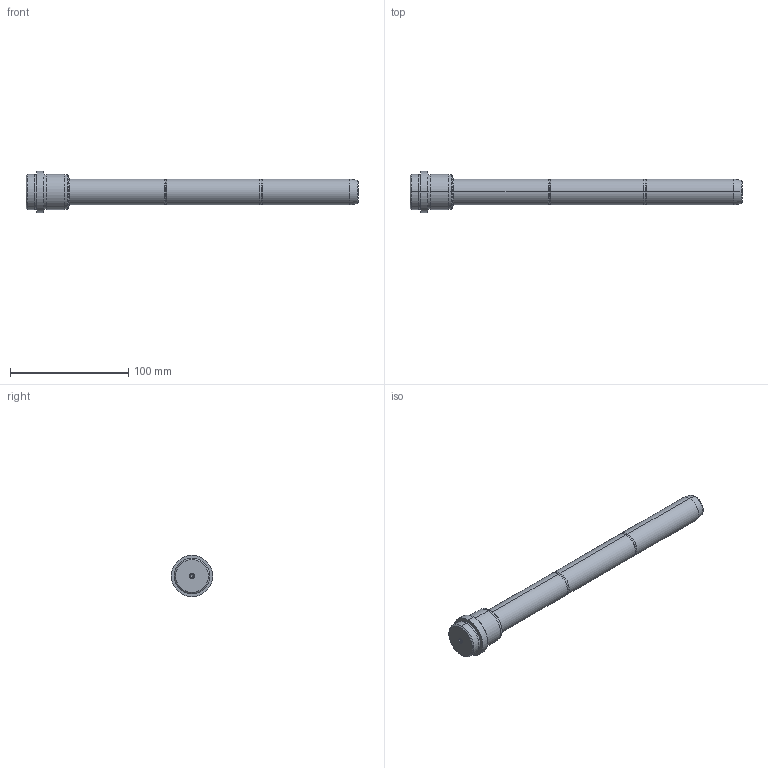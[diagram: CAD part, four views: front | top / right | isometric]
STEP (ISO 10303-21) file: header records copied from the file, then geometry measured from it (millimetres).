
FILE_DESCRIPTION( ( 'STEP AP203' ), '1' );
FILE_NAME( 'C:/Projects/D03 - 22x27x245.step', '2003-01-03T00:32:53', ( ' ' ), ( ' ' ), 'XStep 1.0', ' ', ' ' );
FILE_SCHEMA( ( 'CONFIG_CONTROL_DESIGN' ) );
Length unit declared in the file: metre
Products named in the file (1): 1
Bounding box: 281 x 35 x 35 mm (x, y, z)
Volume: 119365.9 mm3; surface area: 22341.4 mm2
Topology: 1 solids, 1 shells, 56 faces, 113 edges, 64 vertices
Faces by surface type: revolution 36, bspline 20
Entity records: 1691 total; most frequent: CARTESIAN_POINT 513, ORIENTED_EDGE 220, DIRECTION 218, EDGE_CURVE 110, AXIS2_PLACEMENT_3D 73, CIRCLE 72, EDGE_LOOP 64, VERTEX_POINT 64
